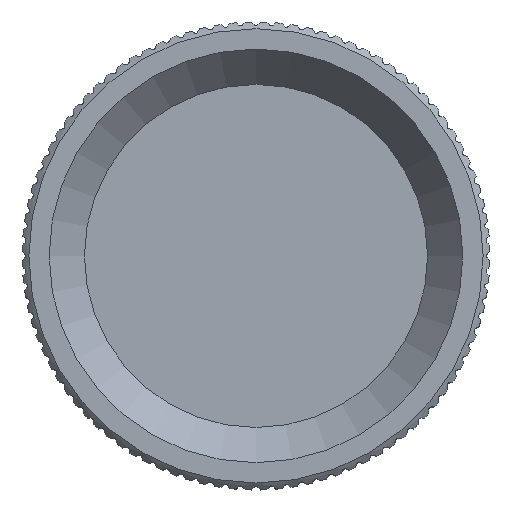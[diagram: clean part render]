
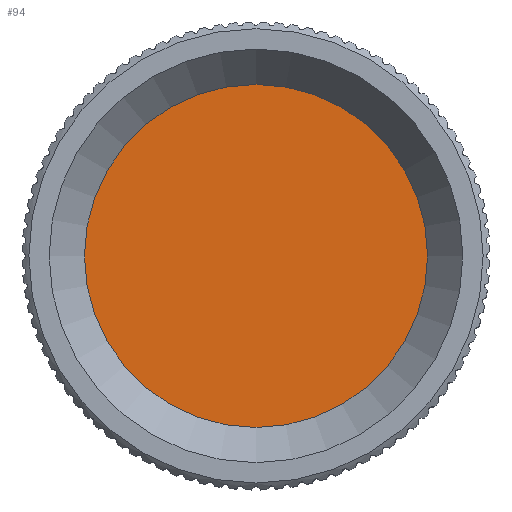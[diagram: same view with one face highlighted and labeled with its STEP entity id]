
A CAD part, top view. The second image highlights one B-rep face of the part: STEP entity #94.
In plain terms, the highlighted planar face has unit normal (0, 0, 1).
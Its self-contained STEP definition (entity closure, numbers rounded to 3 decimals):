
#60=CARTESIAN_POINT('',(12.65,0.,15.2));
#61=VERTEX_POINT('',#60);
#68=CARTESIAN_POINT('',(0.,0.,15.2));
#69=DIRECTION('',(1.,0.,-0.));
#70=DIRECTION('',(0.,-0.,1.));
#71=AXIS2_PLACEMENT_3D('',#68,#70,#69);
#72=CIRCLE('',#71,12.65);
#73=EDGE_CURVE('',#61,#61,#72,.T.);
#86=CARTESIAN_POINT('',(0.,0.,15.2));
#87=DIRECTION('',(1.,0.,0.));
#88=DIRECTION('',(0.,0.,-1.));
#89=AXIS2_PLACEMENT_3D('',#86,#88,#87);
#90=PLANE('',#89);
#91=ORIENTED_EDGE('',*,*,#73,.F.);
#92=EDGE_LOOP('',(#91));
#93=FACE_OUTER_BOUND('',#92,.F.);
#94=ADVANCED_FACE('F7',(#93),#90,.F.);
